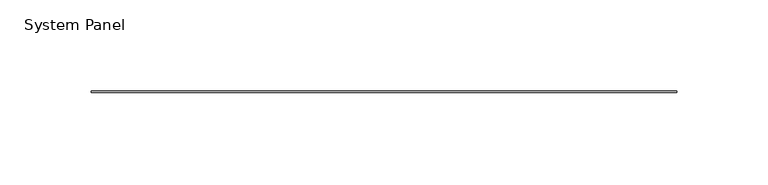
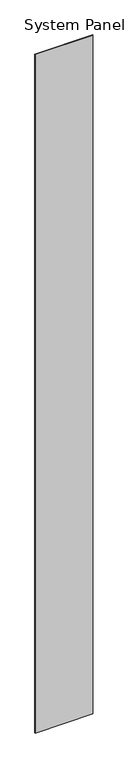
"""IFC4 building model written with IfcOpenShell, lengths in millimetres: plate geometry, System Panel : Stratco_Hiland_Tray."""

from ifc_helpers import new_model, si_unit, origin, origin_with_axes, place, context, project, spatial, polyline, outline, extrude, source, transform, mapped, element, save


def system_panel_45b47346(model_context):
    return source(origin(), model_context, "Body", "SweptSolid", [
        extrude(outline(polyline([(160.7889718, 2.5), (-160.7889718, 2.5), (-160.7889718, 3.5), (160.7889718, 3.5), (160.7889718, 2.5)])), origin_with_axes(), (0.0, 0.0, 1.0), 4000.0),
    ])


if __name__ == "__main__":
    model = new_model("IFC4")
    model_context = context("Model", 3, world=origin())
    ifc_project = project(units=[si_unit("LENGTHUNIT", "METRE", prefix="MILLI")], contexts=[model_context])
    site = spatial("IfcSite", under=ifc_project)
    building = spatial("IfcBuilding", under=site)
    placement = place(None, origin())
    system_panel_shape = system_panel_45b47346(model_context)
    element("IfcPlate", 1, ObjectType="System Panel : Stratco_Hiland_Tray", at=placement, inside=building, context=model_context, shape_type="MappedRepresentation", body=[
        mapped(system_panel_shape, transform((0.0, 0.0, 0.0), x_axis=(1.0, 0.0, 0.0), y_axis=(0.0, 1.0, 0.0), z_axis=(0.0, 0.0, 1.0))),
    ])
    save(model, "model.ifc")
